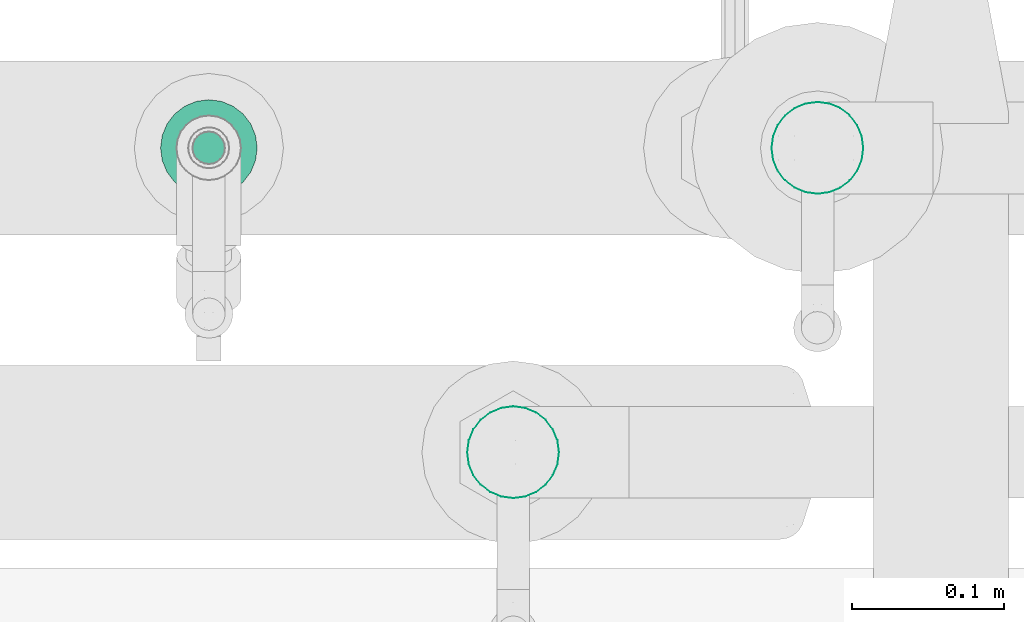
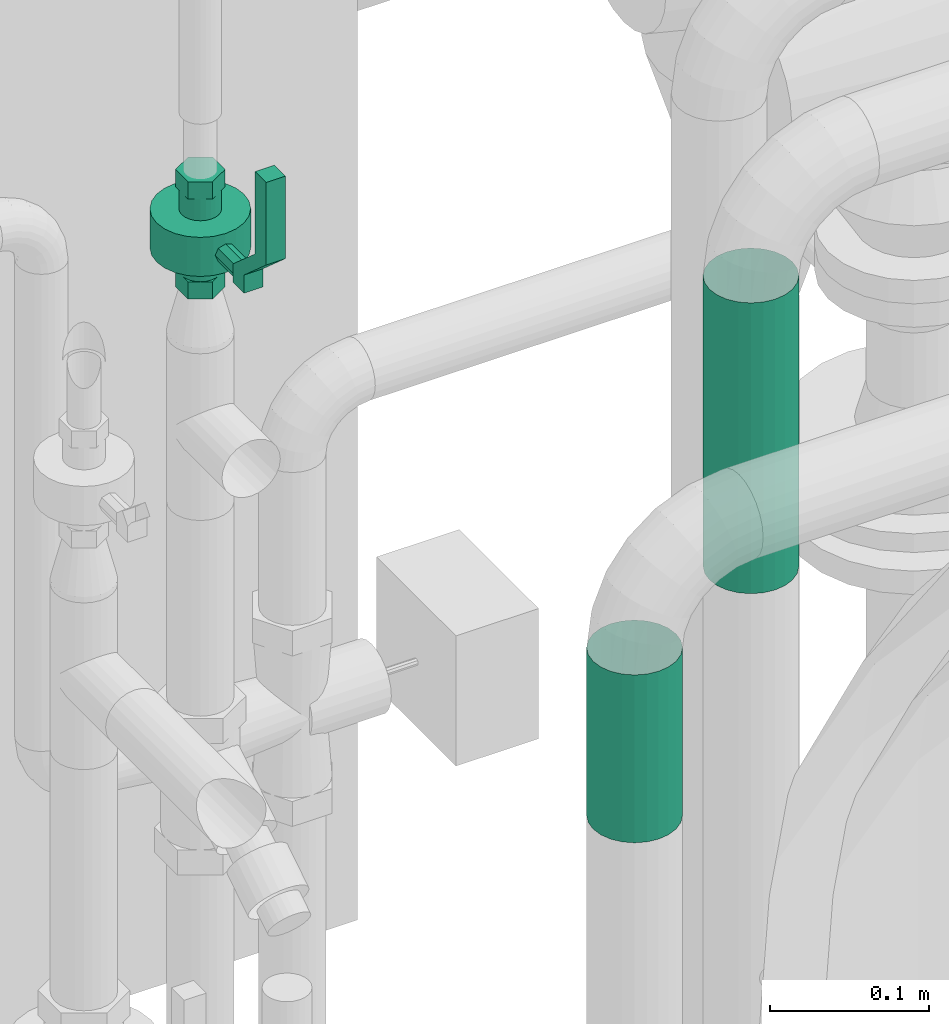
# One storey, part 275 of 374: 2 flow segments, 1 flow controller.
"""IFC2X3 building model written with IfcOpenShell, lengths in metres."""

from ifc_helpers import new_model, si_unit, direction, origin, place, context, subcontext, project, spatial, open_shell, surface_model, source, transform, mapped, element, save


model = new_model("IFC2X3")

# Units and contexts
model_context = context("Model", 3, precision=1e-05, world=origin(), true_north=direction((-0.4480736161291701, 0.8939966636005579)))
body_context = subcontext(model_context, "Body", "Model", "MODEL_VIEW")
ifc_project = project(units=[si_unit("LENGTHUNIT", "METRE"), si_unit("AREAUNIT", "SQUARE_METRE"), si_unit("VOLUMEUNIT", "CUBIC_METRE"), si_unit("PLANEANGLEUNIT", "RADIAN"), si_unit("THERMODYNAMICTEMPERATUREUNIT", "KELVIN"), si_unit("MASSUNIT", "GRAM", prefix="KILO"), si_unit("TIMEUNIT", "SECOND")], contexts=[model_context])

# Site, building, storey
site_placement = place(None, origin())
site = spatial("IfcSite", under=ifc_project, at=site_placement, Name="Site 1", CompositionType="ELEMENT")
building_placement = place(site_placement, origin())
building = spatial("IfcBuilding", under=site, at=building_placement, Name="Undefined", CompositionType="ELEMENT")
storey_placement = place(building_placement, origin())
storey = spatial("IfcBuildingStorey", under=building, at=storey_placement, Name="Rez de chauss\x8ee", CompositionType="ELEMENT", Elevation=0.0)

# Flow controller
shared_shape_1 = source(origin(), body_context, "Body", "SurfaceModel", [
    surface_model("IfcFaceBasedSurfaceModel", [(0.0, 0.0, 0.0), (0.01399999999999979, 0.0, 0.0), (0.01399999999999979, 0.013999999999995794, 0.0), (0.0, 0.013999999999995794, 0.0), (0.01399999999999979, 0.0, 0.014000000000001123), (0.01399999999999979, 0.013999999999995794, 0.014000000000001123), (0.0, 0.0, 0.014000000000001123), (0.0, 0.013999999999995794, 0.014000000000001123), (-0.024666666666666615, 0.0, 0.041999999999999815), (-0.024666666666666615, 0.013999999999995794, 0.041999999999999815), (-0.08800000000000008, 0.0, 0.041999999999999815), (-0.08800000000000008, 0.013999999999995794, 0.041999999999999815), (-0.08800000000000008, 0.0, 0.02800000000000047), (-0.08800000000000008, 0.013999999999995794, 0.02800000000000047), (-0.024666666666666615, 0.0, 0.02800000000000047), (-0.024666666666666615, 0.013999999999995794, 0.02800000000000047), (-0.038000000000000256, -0.006500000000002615, -0.06079422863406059), (-0.038000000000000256, -0.006500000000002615, -0.045205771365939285), (-0.024800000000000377, -0.006500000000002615, -0.045205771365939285), (-0.024800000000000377, -0.006500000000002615, -0.06079422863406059), (-0.038000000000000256, 0.006999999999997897, -0.06858845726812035), (-0.024800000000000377, 0.006999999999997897, -0.06858845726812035), (-0.038000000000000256, 0.02049999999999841, -0.06079422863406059), (-0.024800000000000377, 0.02049999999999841, -0.06079422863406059), (-0.038000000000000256, 0.02049999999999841, -0.045205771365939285), (-0.024800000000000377, 0.02049999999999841, -0.045205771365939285), (-0.038000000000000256, 0.006999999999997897, -0.03741154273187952), (-0.024800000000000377, 0.006999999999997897, -0.03741154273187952), (-0.024800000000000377, 0.02049999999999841, -0.05299999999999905), (-0.024800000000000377, 0.02003999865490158, -0.04950594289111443), (-0.008000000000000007, 0.02003999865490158, -0.04950594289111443), (-0.008000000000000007, 0.02049999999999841, -0.05299999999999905), (-0.024800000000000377, 0.018691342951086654, -0.04624999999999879), (-0.008000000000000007, 0.018691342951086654, -0.04624999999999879), (-0.024800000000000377, 0.016545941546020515, -0.04345405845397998), (-0.008000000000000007, 0.016545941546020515, -0.04345405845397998), (-0.024800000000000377, 0.0137499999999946, -0.04130865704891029), (-0.008000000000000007, 0.0137499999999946, -0.04130865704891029), (-0.024800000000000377, 0.010494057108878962, -0.03996000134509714), (-0.008000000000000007, 0.010494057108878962, -0.03996000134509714), (-0.024800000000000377, 0.006999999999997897, -0.03950000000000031), (-0.008000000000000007, 0.006999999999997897, -0.03950000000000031), (-0.024800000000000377, 0.003505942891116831, -0.03996000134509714), (-0.008000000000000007, 0.003505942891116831, -0.03996000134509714), (-0.024800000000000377, 0.0002500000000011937, -0.04130865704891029), (-0.008000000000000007, 0.0002500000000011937, -0.04130865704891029), (-0.024800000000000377, -0.0025459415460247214, -0.04345405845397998), (-0.008000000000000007, -0.0025459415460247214, -0.04345405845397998), (-0.024800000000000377, -0.00469134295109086, -0.04624999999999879), (-0.008000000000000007, -0.00469134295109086, -0.04624999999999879), (-0.024800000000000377, -0.006039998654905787, -0.04950594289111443), (-0.008000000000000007, -0.006039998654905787, -0.04950594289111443), (-0.024800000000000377, -0.006500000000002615, -0.05299999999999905), (-0.008000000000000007, -0.006500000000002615, -0.05299999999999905), (-0.024800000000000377, -0.006039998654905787, -0.056494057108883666), (-0.008000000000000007, -0.006039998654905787, -0.056494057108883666), (-0.024800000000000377, -0.00469134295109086, -0.059749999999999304), (-0.008000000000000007, -0.00469134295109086, -0.059749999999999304), (-0.024800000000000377, -0.0025459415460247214, -0.06254594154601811), (-0.008000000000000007, -0.0025459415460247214, -0.06254594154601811), (-0.024800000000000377, 0.0002500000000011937, -0.06469134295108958), (-0.008000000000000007, 0.0002500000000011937, -0.06469134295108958), (-0.024800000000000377, 0.003505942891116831, -0.06603999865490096), (-0.008000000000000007, 0.003505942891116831, -0.06603999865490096), (-0.024800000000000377, 0.006999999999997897, -0.06649999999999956), (-0.008000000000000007, 0.006999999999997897, -0.06649999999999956), (-0.024800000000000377, 0.010494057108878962, -0.06603999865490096), (-0.008000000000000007, 0.010494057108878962, -0.06603999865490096), (-0.024800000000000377, 0.0137499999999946, -0.06469134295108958), (-0.008000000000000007, 0.0137499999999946, -0.06469134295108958), (-0.024800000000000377, 0.016545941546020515, -0.06254594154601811), (-0.008000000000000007, 0.016545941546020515, -0.06254594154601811), (-0.024800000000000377, 0.018691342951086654, -0.059749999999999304), (-0.008000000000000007, 0.018691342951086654, -0.059749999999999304), (-0.024800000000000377, 0.02003999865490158, -0.056494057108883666), (-0.008000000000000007, 0.02003999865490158, -0.056494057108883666), (-0.008000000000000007, 0.038750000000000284, -0.05299999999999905), (-0.008000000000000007, 0.03766814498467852, -0.044782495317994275), (0.021999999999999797, 0.03766814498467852, -0.044782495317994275), (0.021999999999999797, 0.038750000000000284, -0.05299999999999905), (-0.008000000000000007, 0.0344963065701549, -0.03712499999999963), (0.021999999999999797, 0.0344963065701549, -0.03712499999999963), (-0.008000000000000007, 0.029450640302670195, -0.03054935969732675), (0.021999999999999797, 0.029450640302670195, -0.03054935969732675), (-0.008000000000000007, 0.02287499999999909, -0.02550369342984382), (0.021999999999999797, 0.02287499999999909, -0.02550369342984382), (-0.008000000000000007, 0.015217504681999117, -0.022331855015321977), (0.021999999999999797, 0.015217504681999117, -0.022331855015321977), (-0.008000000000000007, 0.006999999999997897, -0.021250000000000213), (0.021999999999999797, 0.006999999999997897, -0.021250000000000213), (-0.008000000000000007, -0.0012175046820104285, -0.022331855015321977), (0.021999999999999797, -0.0012175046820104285, -0.022331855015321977), (-0.008000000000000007, -0.008875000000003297, -0.02550369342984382), (0.021999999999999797, -0.008875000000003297, -0.02550369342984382), (-0.008000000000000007, -0.015450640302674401, -0.03054935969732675), (0.021999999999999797, -0.015450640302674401, -0.03054935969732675), (-0.008000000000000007, -0.020496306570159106, -0.03712499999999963), (0.021999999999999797, -0.020496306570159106, -0.03712499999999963), (-0.008000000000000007, -0.023668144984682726, -0.044782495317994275), (0.021999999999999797, -0.023668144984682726, -0.044782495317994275), (-0.008000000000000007, -0.02475000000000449, -0.05299999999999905), (0.021999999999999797, -0.02475000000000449, -0.05299999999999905), (-0.008000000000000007, -0.023668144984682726, -0.06121750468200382), (0.021999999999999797, -0.023668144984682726, -0.06121750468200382), (-0.008000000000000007, -0.020496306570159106, -0.06887500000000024), (0.021999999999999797, -0.020496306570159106, -0.06887500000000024), (-0.008000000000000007, -0.015450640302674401, -0.07545064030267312), (0.021999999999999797, -0.015450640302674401, -0.07545064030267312), (-0.008000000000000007, -0.008875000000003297, -0.08049630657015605), (0.021999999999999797, -0.008875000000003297, -0.08049630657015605), (-0.008000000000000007, -0.0012175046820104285, -0.0836681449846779), (0.021999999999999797, -0.0012175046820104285, -0.0836681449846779), (-0.008000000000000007, 0.006999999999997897, -0.08474999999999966), (0.021999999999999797, 0.006999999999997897, -0.08474999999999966), (-0.008000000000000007, 0.015217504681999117, -0.0836681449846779), (0.021999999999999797, 0.015217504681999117, -0.0836681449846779), (-0.008000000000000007, 0.02287499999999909, -0.08049630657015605), (0.021999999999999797, 0.02287499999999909, -0.08049630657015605), (-0.008000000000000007, 0.029450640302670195, -0.07545064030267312), (0.021999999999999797, 0.029450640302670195, -0.07545064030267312), (-0.008000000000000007, 0.0344963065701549, -0.06887500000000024), (0.021999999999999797, 0.0344963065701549, -0.06887500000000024), (-0.008000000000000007, 0.03766814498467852, -0.06121750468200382), (0.021999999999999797, 0.03766814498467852, -0.06121750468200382), (-0.008000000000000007, 0.006999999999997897, -0.05299999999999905), (0.021999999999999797, 0.006999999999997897, -0.05299999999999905), (0.021999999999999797, 0.02049999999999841, -0.05299999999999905), (0.021999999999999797, 0.02003999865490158, -0.04950594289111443), (0.03880000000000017, 0.02003999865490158, -0.04950594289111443), (0.03880000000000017, 0.02049999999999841, -0.05299999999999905), (0.021999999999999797, 0.018691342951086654, -0.04624999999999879), (0.03880000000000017, 0.018691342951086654, -0.04624999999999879), (0.021999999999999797, 0.016545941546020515, -0.04345405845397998), (0.03880000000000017, 0.016545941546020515, -0.04345405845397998), (0.021999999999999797, 0.0137499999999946, -0.04130865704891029), (0.03880000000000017, 0.0137499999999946, -0.04130865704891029), (0.021999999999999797, 0.010494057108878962, -0.03996000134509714), (0.03880000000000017, 0.010494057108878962, -0.03996000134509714), (0.021999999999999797, 0.006999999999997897, -0.03950000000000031), (0.03880000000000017, 0.006999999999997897, -0.03950000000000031), (0.021999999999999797, 0.003505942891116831, -0.03996000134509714), (0.03880000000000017, 0.003505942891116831, -0.03996000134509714), (0.021999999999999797, 0.0002500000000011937, -0.04130865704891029), (0.03880000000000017, 0.0002500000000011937, -0.04130865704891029), (0.021999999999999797, -0.0025459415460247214, -0.04345405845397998), (0.03880000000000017, -0.0025459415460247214, -0.04345405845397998), (0.021999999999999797, -0.00469134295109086, -0.04624999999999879), (0.03880000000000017, -0.00469134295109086, -0.04624999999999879), (0.021999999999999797, -0.006039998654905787, -0.04950594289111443), (0.03880000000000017, -0.006039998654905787, -0.04950594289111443), (0.021999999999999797, -0.006500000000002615, -0.05299999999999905), (0.03880000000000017, -0.006500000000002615, -0.05299999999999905), (0.021999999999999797, -0.006039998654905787, -0.056494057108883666), (0.03880000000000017, -0.006039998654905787, -0.056494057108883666), (0.021999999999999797, -0.00469134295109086, -0.059749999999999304), (0.03880000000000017, -0.00469134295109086, -0.059749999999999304), (0.021999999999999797, -0.0025459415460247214, -0.06254594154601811), (0.03880000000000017, -0.0025459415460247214, -0.06254594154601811), (0.021999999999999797, 0.0002500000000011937, -0.06469134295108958), (0.03880000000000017, 0.0002500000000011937, -0.06469134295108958), (0.021999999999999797, 0.003505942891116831, -0.06603999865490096), (0.03880000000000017, 0.003505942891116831, -0.06603999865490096), (0.021999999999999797, 0.006999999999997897, -0.06649999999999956), (0.03880000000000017, 0.006999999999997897, -0.06649999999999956), (0.021999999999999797, 0.010494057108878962, -0.06603999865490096), (0.03880000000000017, 0.010494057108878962, -0.06603999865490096), (0.021999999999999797, 0.0137499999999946, -0.06469134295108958), (0.03880000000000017, 0.0137499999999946, -0.06469134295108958), (0.021999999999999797, 0.016545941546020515, -0.06254594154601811), (0.03880000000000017, 0.016545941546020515, -0.06254594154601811), (0.021999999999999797, 0.018691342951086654, -0.059749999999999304), (0.03880000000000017, 0.018691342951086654, -0.059749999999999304), (0.021999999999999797, 0.02003999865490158, -0.056494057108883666), (0.03880000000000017, 0.02003999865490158, -0.056494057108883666), (0.03880000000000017, -0.006500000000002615, -0.06079422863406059), (0.03880000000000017, -0.006500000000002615, -0.045205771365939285), (0.052000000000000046, -0.006500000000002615, -0.045205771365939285), (0.052000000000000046, -0.006500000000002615, -0.06079422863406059), (0.03880000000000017, 0.006999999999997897, -0.06858845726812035), (0.052000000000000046, 0.006999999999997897, -0.06858845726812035), (0.03880000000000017, 0.02049999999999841, -0.06079422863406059), (0.052000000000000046, 0.02049999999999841, -0.06079422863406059), (0.03880000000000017, 0.02049999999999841, -0.045205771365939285), (0.052000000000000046, 0.02049999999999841, -0.045205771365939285), (0.03880000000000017, 0.006999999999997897, -0.03741154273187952), (0.052000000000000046, 0.006999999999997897, -0.03741154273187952), (0.01399999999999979, 0.006999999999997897, -0.05299999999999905), (0.011949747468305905, 0.011949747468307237, -0.05299999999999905), (0.011949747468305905, 0.011949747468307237, 0.0), (0.01399999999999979, 0.006999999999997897, 0.0), (0.007000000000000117, 0.013999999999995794, -0.05299999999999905), (0.007000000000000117, 0.013999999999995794, 0.0), (0.00205025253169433, 0.011949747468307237, -0.05299999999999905), (0.00205025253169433, 0.011949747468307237, 0.0), (0.0, 0.006999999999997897, -0.05299999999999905), (0.0, 0.006999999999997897, 0.0), (0.00205025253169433, 0.0020502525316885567, -0.05299999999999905), (0.00205025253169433, 0.0020502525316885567, 0.0), (0.007000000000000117, 0.0, -0.05299999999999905), (0.007000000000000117, 0.0, 0.0), (0.011949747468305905, 0.0020502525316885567, -0.05299999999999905), (0.011949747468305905, 0.0020502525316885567, 0.0)], [open_shell([[[0, 1, 2, 3]], [[1, 4, 5, 2]], [[4, 6, 7, 5]], [[6, 8, 9, 7]], [[8, 10, 11, 9]], [[10, 12, 13, 11]], [[12, 14, 15, 13]], [[14, 0, 3, 15]], [[3, 7, 2]], [[7, 3, 9]], [[15, 9, 3]], [[9, 15, 11]], [[13, 11, 15]], [[5, 2, 7]], [[1, 6, 0]], [[8, 0, 6]], [[0, 8, 14]], [[10, 14, 8]], [[14, 10, 12]], [[6, 1, 4]], [[16, 17, 18, 19]], [[20, 16, 19, 21]], [[22, 20, 21, 23]], [[24, 22, 23, 25]], [[26, 24, 25, 27]], [[17, 26, 27, 18]], [[17, 16, 20]], [[17, 20, 22]], [[17, 22, 24]], [[17, 24, 26]], [[18, 21, 19]], [[18, 23, 21]], [[18, 25, 23]], [[18, 27, 25]], [[28, 29, 30, 31]], [[29, 32, 33, 30]], [[32, 34, 35, 33]], [[34, 36, 37, 35]], [[36, 38, 39, 37]], [[38, 40, 41, 39]], [[40, 42, 43, 41]], [[42, 44, 45, 43]], [[44, 46, 47, 45]], [[46, 48, 49, 47]], [[48, 50, 51, 49]], [[50, 52, 53, 51]], [[52, 54, 55, 53]], [[54, 56, 57, 55]], [[56, 58, 59, 57]], [[58, 60, 61, 59]], [[60, 62, 63, 61]], [[62, 64, 65, 63]], [[64, 66, 67, 65]], [[66, 68, 69, 67]], [[68, 70, 71, 69]], [[70, 72, 73, 71]], [[72, 74, 75, 73]], [[74, 28, 31, 75]], [[76, 77, 78, 79]], [[77, 80, 81, 78]], [[80, 82, 83, 81]], [[82, 84, 85, 83]], [[84, 86, 87, 85]], [[86, 88, 89, 87]], [[88, 90, 91, 89]], [[90, 92, 93, 91]], [[92, 94, 95, 93]], [[94, 96, 97, 95]], [[96, 98, 99, 97]], [[98, 100, 101, 99]], [[100, 102, 103, 101]], [[102, 104, 105, 103]], [[104, 106, 107, 105]], [[106, 108, 109, 107]], [[108, 110, 111, 109]], [[110, 112, 113, 111]], [[112, 114, 115, 113]], [[114, 116, 117, 115]], [[116, 118, 119, 117]], [[118, 120, 121, 119]], [[120, 122, 123, 121]], [[122, 76, 79, 123]], [[124, 77, 76]], [[124, 80, 77]], [[124, 82, 80]], [[124, 84, 82]], [[124, 86, 84]], [[124, 88, 86]], [[124, 90, 88]], [[124, 92, 90]], [[124, 94, 92]], [[124, 96, 94]], [[124, 98, 96]], [[124, 100, 98]], [[124, 102, 100]], [[124, 104, 102]], [[124, 106, 104]], [[124, 108, 106]], [[124, 110, 108]], [[124, 112, 110]], [[124, 114, 112]], [[124, 116, 114]], [[124, 118, 116]], [[124, 120, 118]], [[124, 122, 120]], [[124, 76, 122]], [[125, 123, 79]], [[125, 121, 123]], [[125, 119, 121]], [[125, 117, 119]], [[125, 115, 117]], [[125, 113, 115]], [[125, 111, 113]], [[125, 109, 111]], [[125, 107, 109]], [[125, 105, 107]], [[125, 103, 105]], [[125, 101, 103]], [[125, 99, 101]], [[125, 97, 99]], [[125, 95, 97]], [[125, 93, 95]], [[125, 91, 93]], [[125, 89, 91]], [[125, 87, 89]], [[125, 85, 87]], [[125, 83, 85]], [[125, 81, 83]], [[125, 78, 81]], [[125, 79, 78]], [[126, 127, 128, 129]], [[127, 130, 131, 128]], [[130, 132, 133, 131]], [[132, 134, 135, 133]], [[134, 136, 137, 135]], [[136, 138, 139, 137]], [[138, 140, 141, 139]], [[140, 142, 143, 141]], [[142, 144, 145, 143]], [[144, 146, 147, 145]], [[146, 148, 149, 147]], [[148, 150, 151, 149]], [[150, 152, 153, 151]], [[152, 154, 155, 153]], [[154, 156, 157, 155]], [[156, 158, 159, 157]], [[158, 160, 161, 159]], [[160, 162, 163, 161]], [[162, 164, 165, 163]], [[164, 166, 167, 165]], [[166, 168, 169, 167]], [[168, 170, 171, 169]], [[170, 172, 173, 171]], [[172, 126, 129, 173]], [[174, 175, 176, 177]], [[178, 174, 177, 179]], [[180, 178, 179, 181]], [[182, 180, 181, 183]], [[184, 182, 183, 185]], [[175, 184, 185, 176]], [[175, 174, 178]], [[175, 178, 180]], [[175, 180, 182]], [[175, 182, 184]], [[176, 179, 177]], [[176, 181, 179]], [[176, 183, 181]], [[176, 185, 183]], [[186, 187, 188, 189]], [[187, 190, 191, 188]], [[190, 192, 193, 191]], [[192, 194, 195, 193]], [[194, 196, 197, 195]], [[196, 198, 199, 197]], [[198, 200, 201, 199]], [[200, 186, 189, 201]]])]),
])
flow_controller_placement = place(storey_placement, origin())
element("IfcFlowController", 1, at=flow_controller_placement, inside=storey, Name="Robinet à boisseau sphérique", ObjectType="Robinet à boisseau sphérique", context=body_context, shape_type="MappedRepresentation", body=[
    mapped(shared_shape_1, transform((53.85056201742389, 10.865037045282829, 2.1671203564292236), x_axis=(0.0, 0.0, -1.0), y_axis=(1.0, 0.0, 0.0), z_axis=(0.0, -1.0, 0.0))),
])

# Flow segments
shared_shape_2 = source(origin(), body_context, "Body", "SurfaceModel", [
    surface_model("IfcFaceBasedSurfaceModel", [(0.0, 0.007870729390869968, 7.105427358e-15), (0.0, 0.0, 0.0), (0.12890862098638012, 8.8817842e-16, 0.0), (0.12890862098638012, 0.00787072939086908, 0.0), (0.0, -0.00760254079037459, -0.0020370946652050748), (0.12890862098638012, -0.007602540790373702, -0.0020370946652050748), (0.0, -0.01441879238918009, -0.00597245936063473), (0.12890862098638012, -0.01441879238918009, -0.005972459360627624), (0.0, -0.019984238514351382, -0.011537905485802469), (0.12890862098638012, -0.019984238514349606, -0.011537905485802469), (0.0, -0.023919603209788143, -0.018354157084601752), (0.12890862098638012, -0.023919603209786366, -0.018354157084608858), (0.0, -0.025956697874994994, -0.025956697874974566), (0.12890862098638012, -0.025956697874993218, -0.025956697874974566), (0.0, -0.025956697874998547, -0.03382742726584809), (0.12890862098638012, -0.025956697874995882, -0.03382742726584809), (0.0, -0.02391960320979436, -0.041429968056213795), (0.12890862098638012, -0.023919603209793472, -0.0414299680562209), (0.0, -0.019984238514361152, -0.04824621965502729), (0.12890862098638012, -0.019984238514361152, -0.048246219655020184), (0.0, -0.01441879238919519, -0.05381166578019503), (0.12890862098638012, -0.014418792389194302, -0.05381166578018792), (0.0, -0.007602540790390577, -0.05774703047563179), (0.12890862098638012, -0.007602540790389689, -0.05774703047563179), (0.0, -1.7763568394e-14, -0.05978412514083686), (0.12890862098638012, -1.8651746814e-14, -0.05978412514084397), (0.0, 0.007870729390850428, -0.05978412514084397), (0.12890862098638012, 0.007870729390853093, -0.05978412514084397), (0.0, 0.015473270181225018, -0.057747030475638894), (0.12890862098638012, 0.015473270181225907, -0.05774703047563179), (0.0, 0.022289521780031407, -0.05381166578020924), (0.12890862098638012, 0.022289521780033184, -0.053811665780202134), (0.0, 0.027854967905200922, -0.048246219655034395), (0.12890862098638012, 0.02785496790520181, -0.0482462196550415), (0.0, 0.031790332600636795, -0.04142996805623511), (0.12890862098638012, 0.03179033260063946, -0.04142996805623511), (0.0, 0.033827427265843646, -0.0338274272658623), (0.12890862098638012, 0.03382742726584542, -0.0338274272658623), (0.0, 0.0338274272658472, -0.025956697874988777), (0.12890862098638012, 0.033827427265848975, -0.025956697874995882), (0.0, 0.0317903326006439, -0.01835415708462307), (0.12890862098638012, 0.03179033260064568, -0.01835415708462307), (0.0, 0.02785496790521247, -0.01153790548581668), (0.12890862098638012, 0.027854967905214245, -0.011537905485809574), (0.0, 0.022289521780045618, -0.005972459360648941), (0.12890862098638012, 0.022289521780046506, -0.005972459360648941), (0.0, 0.015473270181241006, -0.0020370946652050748), (0.12890862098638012, 0.01547327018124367, -0.00203709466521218)], [open_shell([[[0, 1, 2, 3]], [[1, 4, 5, 2]], [[4, 6, 7, 5]], [[6, 8, 9, 7]], [[8, 10, 11, 9]], [[10, 12, 13, 11]], [[12, 14, 15, 13]], [[14, 16, 17, 15]], [[16, 18, 19, 17]], [[18, 20, 21, 19]], [[20, 22, 23, 21]], [[22, 24, 25, 23]], [[24, 26, 27, 25]], [[26, 28, 29, 27]], [[28, 30, 31, 29]], [[30, 32, 33, 31]], [[32, 34, 35, 33]], [[34, 36, 37, 35]], [[36, 38, 39, 37]], [[38, 40, 41, 39]], [[40, 42, 43, 41]], [[42, 44, 45, 43]], [[44, 46, 47, 45]], [[46, 0, 3, 47]]])]),
])
flow_segment_1_placement = place(storey_placement, origin())
element("IfcFlowSegment", 2, at=flow_segment_1_placement, inside=storey, Name="Tube acier d'après DIN 2448", ObjectType="Tube acier d'après DIN 2448", context=body_context, shape_type="MappedRepresentation", body=[
    mapped(shared_shape_2, transform((54.0866846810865, 10.725840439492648, 1.76035), x_axis=(0.0, 0.0, 1.0), y_axis=(0.13052619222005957, -0.9914448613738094, 0.0), z_axis=(0.9914448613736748, 0.13052619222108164, 0.0))),
])
shared_shape_3 = source(origin(), body_context, "Body", "SurfaceModel", [
    surface_model("IfcFaceBasedSurfaceModel", [(0.0, 0.007870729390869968, 7.105427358e-15), (0.0, 0.0, 0.0), (0.22329171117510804, 7.105427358e-15, -4.4408921e-16), (0.22329171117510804, 0.007870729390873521, 4.4408921e-16), (0.0, -0.00760254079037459, -0.0020370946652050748), (0.22329171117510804, -0.007602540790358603, -0.002037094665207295), (0.0, -0.01441879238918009, -0.00597245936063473), (0.22329171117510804, -0.014418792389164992, -0.005972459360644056), (0.0, -0.019984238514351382, -0.011537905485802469), (0.22329171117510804, -0.01998423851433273, -0.011537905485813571), (0.0, -0.023919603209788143, -0.018354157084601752), (0.22329171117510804, -0.02391960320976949, -0.01835415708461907), (0.0, -0.025956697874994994, -0.025956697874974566), (0.22329171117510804, -0.025956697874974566, -0.025956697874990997), (0.0, -0.025956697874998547, -0.03382742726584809), (0.22329171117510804, -0.025956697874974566, -0.03382742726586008), (0.0, -0.02391960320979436, -0.041429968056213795), (0.22329171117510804, -0.023919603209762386, -0.04142996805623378), (0.0, -0.019984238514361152, -0.04824621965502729), (0.22329171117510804, -0.019984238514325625, -0.048246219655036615), (0.0, -0.01441879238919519, -0.05381166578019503), (0.22329171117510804, -0.014418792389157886, -0.05381166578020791), (0.0, -0.007602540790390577, -0.05774703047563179), (0.22329171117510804, -0.007602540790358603, -0.05774703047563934), (0.0, -1.7763568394e-14, -0.05978412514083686), (0.22329171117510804, 2.1316282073e-14, -0.05978412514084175), (0.0, 0.007870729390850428, -0.05978412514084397), (0.22329171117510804, 0.007870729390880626, -0.05978412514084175), (0.0, 0.015473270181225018, -0.057747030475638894), (0.22329171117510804, 0.01547327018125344, -0.057747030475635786), (0.0, 0.022289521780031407, -0.05381166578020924), (0.22329171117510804, 0.022289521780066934, -0.05381166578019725), (0.0, 0.027854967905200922, -0.048246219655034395), (0.22329171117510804, 0.027854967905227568, -0.04824621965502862), (0.0, 0.031790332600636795, -0.04142996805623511), (0.22329171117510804, 0.03179033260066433, -0.041429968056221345), (0.0, 0.033827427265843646, -0.0338274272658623), (0.22329171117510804, 0.0338274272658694, -0.03382742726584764), (0.0, 0.0338274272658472, -0.025956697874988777), (0.22329171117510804, 0.0338274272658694, -0.02595669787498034), (0.0, 0.0317903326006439, -0.01835415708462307), (0.22329171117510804, 0.03179033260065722, -0.018354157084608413), (0.0, 0.02785496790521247, -0.01153790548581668), (0.22329171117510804, 0.027854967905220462, -0.01153790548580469), (0.0, 0.022289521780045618, -0.005972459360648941), (0.22329171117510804, 0.022289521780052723, -0.005972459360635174), (0.0, 0.015473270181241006, -0.0020370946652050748), (0.22329171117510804, 0.015473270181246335, -0.0020370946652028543)], [open_shell([[[0, 1, 2, 3]], [[1, 4, 5, 2]], [[4, 6, 7, 5]], [[6, 8, 9, 7]], [[8, 10, 11, 9]], [[10, 12, 13, 11]], [[12, 14, 15, 13]], [[14, 16, 17, 15]], [[16, 18, 19, 17]], [[18, 20, 21, 19]], [[20, 22, 23, 21]], [[22, 24, 25, 23]], [[24, 26, 27, 25]], [[26, 28, 29, 27]], [[28, 30, 31, 29]], [[30, 32, 33, 31]], [[32, 34, 35, 33]], [[34, 36, 37, 35]], [[36, 38, 39, 37]], [[38, 40, 41, 39]], [[40, 42, 43, 41]], [[42, 44, 45, 43]], [[44, 46, 47, 45]], [[46, 0, 3, 47]]])]),
])
flow_segment_2_placement = place(storey_placement, origin())
element("IfcFlowSegment", 3, at=flow_segment_2_placement, inside=storey, Name="Tube acier d'après DIN 2448", ObjectType="Tube acier d'après DIN 2448", context=body_context, shape_type="MappedRepresentation", body=[
    mapped(shared_shape_3, transform((54.26536541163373, 10.888914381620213, 1.7603499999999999), x_axis=(0.0, 0.0, 1.0), y_axis=(-0.9914448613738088, -0.13052619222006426, 0.0), z_axis=(0.13052619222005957, -0.9914448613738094, 0.0))),
])

save(model, "model.ifc")
